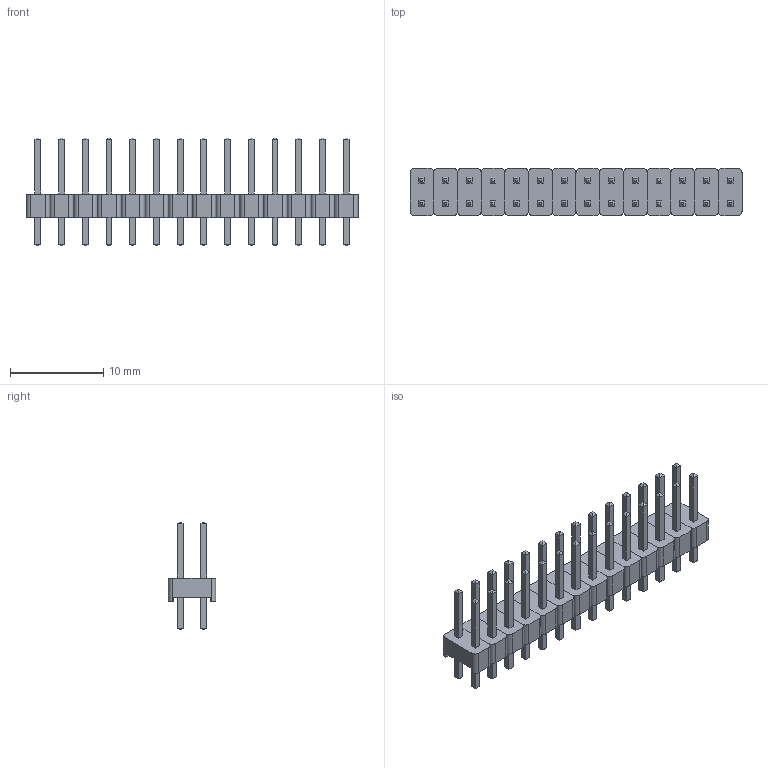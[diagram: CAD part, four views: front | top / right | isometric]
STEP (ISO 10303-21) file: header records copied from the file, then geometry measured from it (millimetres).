
FILE_DESCRIPTION(('FreeCAD Model'),'2;1');
FILE_NAME('Open CASCADE Shape Model','2022-04-06T15:59:03',( 'Engenharia Metaltex'),('Metaltex'), 'Open CASCADE STEP processor 7.5','FreeCAD','Unknown');
FILE_SCHEMA(('AUTOMOTIVE_DESIGN { 1 0 10303 214 1 1 1 1 }'));
Length unit declared in the file: millimetre
Products named in the file (57): BPDC; 14; Base013; Pino027; Pino028; 1; Base; Pino1; Pino2; 2; Base001; Pino003; Pino004; 3; Base002; Pino006; Pino005; 4; Base003; Pino008; Pino007; 5; Base004; Pino009; Pino010; 6; Base005; Pino012; Pino011; 7; Base006; Pino013; Pino014; 8; Base007; Pino015; Pino016; 9; Base008; Pino017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
Assembly tree (56 placements, depth 3):
  BPDC
    14
      Base013
      Pino027
      Pino028
    1
      Base
      Pino1
      Pino2
    2
      Base001
      Pino003
      Pino004
    3
      Base002
      Pino006
      Pino005
    4
      Base003
      Pino008
      Pino007
    5
      Base004
      Pino009
      Pino010
    6
      Base005
      Pino012
      Pino011
    7
      Base006
      Pino013
      Pino014
    8
      Base007
      Pino015
      Pino016
    9
      Base008
      Pino017
      Pino018
    10
      Base009
      Pino019
      Pino020
    11
      Base010
      Pino021
      Pino022
    12
      Base011
      Pino023
      Pino024
    13
      Base012
      Pino025
      Pino026
Bounding box: 35.56 x 5.08 x 11.54 mm (x, y, z)
Volume: 488.9 mm3; surface area: 1800.8 mm2
Topology: 42 solids, 42 shells, 700 faces, 1624 edges, 1008 vertices
Faces by surface type: plane 644, cylinder 56
Entity records: 42019 total; most frequent: CARTESIAN_POINT 6973, DIRECTION 6442, LINE 4648, VECTOR 4648, ORIENTED_EDGE 3248, PCURVE 3248, DEFINITIONAL_REPRESENTATION 3248, EDGE_CURVE 1624
